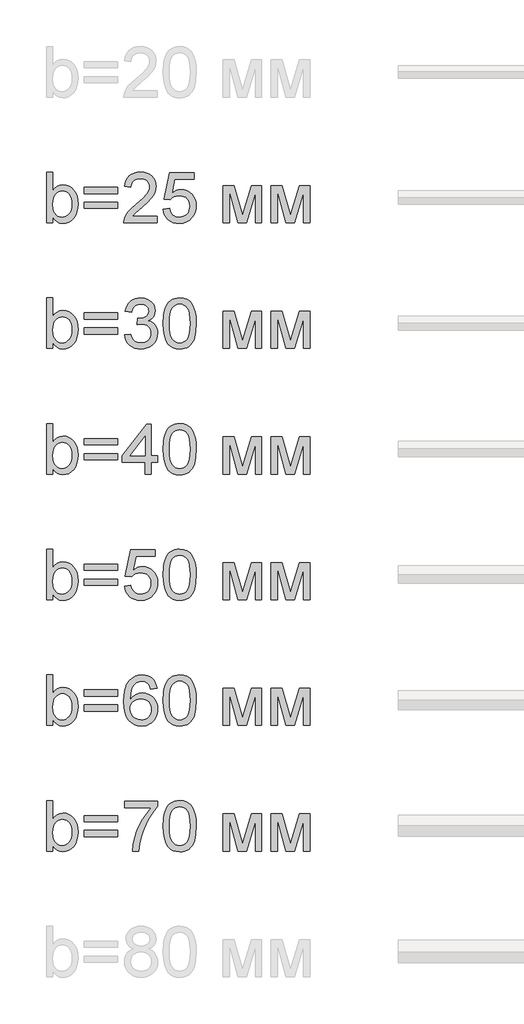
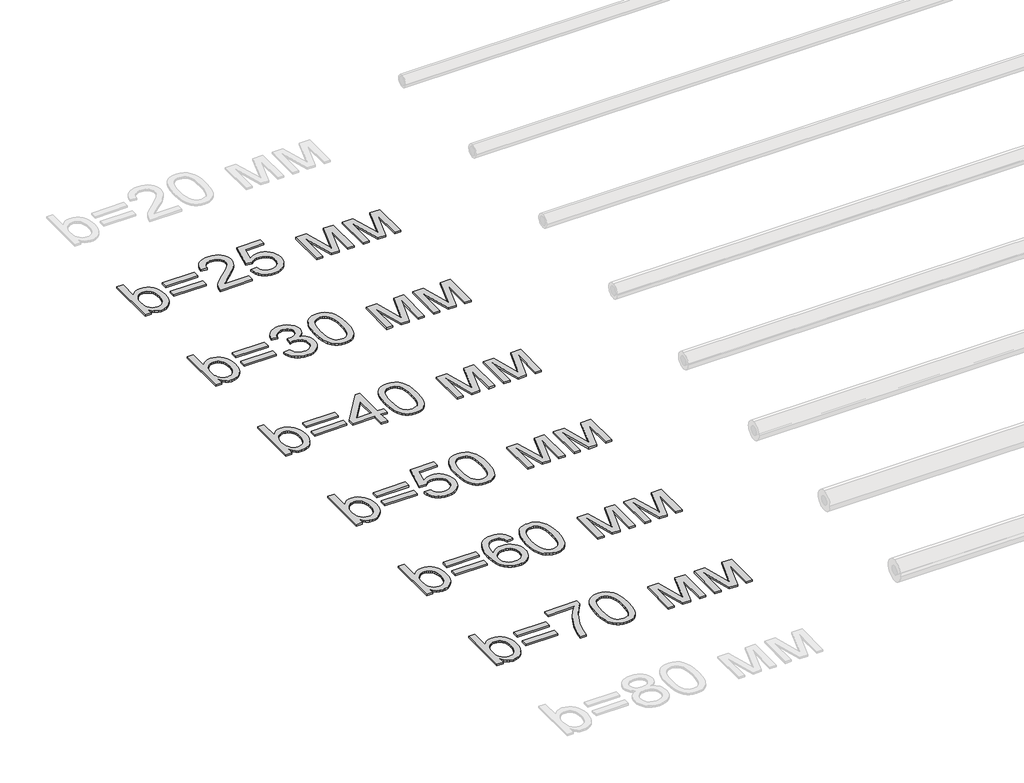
# One storey, part 55 of 86: 6 proxies.
"""IFC4 building model written with IfcOpenShell, lengths in millimetres."""

from ifc_helpers import new_model, si_unit, origin, origin_with_axes, place, context, project, spatial, polyline, outline, extrude, element, save

model = new_model("IFC4")

# Units and contexts
model_context = context("Model", 3, world=origin())
ifc_project = project(units=[si_unit("LENGTHUNIT", "METRE", prefix="MILLI")], contexts=[model_context])

# Site, building, storey
site = spatial("IfcSite", under=ifc_project)
building = spatial("IfcBuilding", under=site)
storey = spatial("IfcBuildingStorey", under=building, Name="Уровень 1", Elevation=0.0)

# Proxies
placement = place(None, origin())
element("IfcBuildingElementProxy", 1, Name="Текст модели 1", ObjectType="Текст модели 1", at=placement, inside=storey, context=model_context, shape_type="SweptSolid", body=[
    extrude(outline(polyline([(47159.6307988, 27669.2937088), (47084.2885662, 27669.2937088), (47084.2885662, 28272.0315697), (47159.6307988, 28272.0315697), (47159.6307988, 28048.5064694), (47184.4076512, 28080.3742473), (47212.3850769, 28103.1369457), (47243.563076, 28116.7945648), (47277.9416484, 28121.3471045), (47316.7531989, 28117.2452202), (47353.4310339, 28104.9395675), (47385.8782258, 28085.2026984), (47411.9978475, 28058.8071653), (47432.4704805, 28026.0104854), (47447.9767066, 27987.0701762), (47457.7439736, 27943.6049185), (47460.9997292, 27897.233393), (47457.6290105, 27843.7249568), (47447.5168541, 27796.6544555), (47430.6632602, 27756.0218892), (47407.0682288, 27721.8272577), (47378.7459136, 27694.7235517), (47347.7104688, 27675.3637617), (47313.9618943, 27663.7478877), (47277.50019, 27659.8759297), (47241.9903805, 27664.8699278), (47210.5088787, 27679.8519221), (47183.0556848, 27704.8219125), (47159.6307988, 27739.7798991), (47159.6307988, 27669.2937088)]), holes=[polyline([(47159.6307988, 27893.7017259), (47164.7811467, 27830.8674811), (47171.2190816, 27807.065516), (47180.2321905, 27788.3403224), (47198.4883345, 27765.0993774), (47219.7059286, 27748.4987024), (47243.8849727, 27738.5382973), (47271.0254669, 27735.2181623), (47293.5582391, 27737.6645776), (47314.5091188, 27745.0038234), (47333.8781058, 27757.2358997), (47351.6652003, 27774.3608066), (47366.5368299, 27796.3325588), (47377.1594225, 27823.105171), (47383.5329781, 27854.6786432), (47385.6574966, 27891.0529755), (47383.6203501, 27928.1170865), (47377.5089104, 27959.9940614), (47367.3231777, 27986.6839001), (47353.0631519, 28008.1866028), (47335.9152524, 28024.7320955), (47317.0658986, 28036.5503046), (47296.5150907, 28043.64123), (47274.2628285, 28046.0048719), (47251.7300563, 28043.5584566), (47230.7791767, 28036.2192108), (47211.4101896, 28023.9871344), (47193.6230951, 28006.8622276), (47178.7514655, 27985.1112046), (47168.1288729, 27959.00078), (47161.7553173, 27928.5309538), (47159.6307988, 27893.7017259)])]), origin_with_axes(), (0.0, 0.0, 1.0), 20.0),
    extrude(outline(polyline([(47931.8886831, 28017.7515346), (47536.3419619, 28017.7515346), (47536.3419619, 28093.0937672), (47931.8886831, 28093.0937672), (47931.8886831, 28017.7515346)])), origin_with_axes(), (0.0, 0.0, 1.0), 20.0),
    extrude(outline(polyline([(47931.8886831, 27838.8137322), (47536.3419619, 27838.8137322), (47536.3419619, 27914.1559648), (47931.8886831, 27914.1559648), (47931.8886831, 27838.8137322)])), origin_with_axes(), (0.0, 0.0, 1.0), 20.0),
    extrude(outline(polyline([(48402.7776369, 27744.6359414), (48402.7776369, 27669.2937088), (48007.2309157, 27669.2937088), (48008.8863847, 27695.8180007), (48015.3243196, 27721.2386465), (48033.9023603, 27761.8344247), (48061.0888398, 27801.2161923), (48100.4154251, 27842.4373698), (48155.4137833, 27888.5513779), (48236.7157043, 27960.7666136), (48285.4968568, 28014.0727147), (48299.724693, 28035.8513288), (48309.8874331, 28057.3356373), (48315.9850772, 28078.5256402), (48318.0176252, 28099.4213376), (48316.1000403, 28119.0800317), (48310.3472856, 28137.1476362), (48300.7593611, 28153.624151), (48287.3362668, 28168.5095763), (48270.8229638, 28180.8382216), (48251.964413, 28189.6443969), (48230.7606145, 28194.928102), (48207.2115683, 28196.6893371), (48182.4025262, 28194.9694888), (48160.2146434, 28189.8099438), (48140.6479198, 28181.2107021), (48123.7023554, 28169.1717638), (48109.9941525, 28154.0977991), (48100.1395136, 28136.3934781), (48094.1384385, 28116.0588008), (48091.9909274, 28093.0937672), (48016.6486948, 28102.5115463), (48023.1280164, 28141.4058703), (48034.9140358, 28175.3889696), (48052.006753, 28204.4608442), (48074.406168, 28228.6214943), (48101.597246, 28247.6134023), (48133.0649521, 28261.1790508), (48168.8092865, 28269.31844), (48208.830249, 28272.0315697), (48249.2098965, 28269.0149373), (48285.1473689, 28259.9650403), (48316.6426662, 28244.8818785), (48343.6957885, 28223.7654519), (48365.4238188, 28198.1792592), (48380.9438405, 28169.6867986), (48390.2558535, 28138.2880704), (48393.3598578, 28103.9830743), (48390.0121317, 28067.9490329), (48379.9689532, 28032.5403908), (48362.1450705, 27996.5247435), (48335.4552318, 27958.6696862), (48292.909679, 27913.4753831), (48227.5186544, 27855.4419984), (48140.8456563, 27782.9692453), (48106.85336, 27744.6359414), (48402.7776369, 27744.6359414)])), origin_with_axes(), (0.0, 0.0, 1.0), 20.0),
    extrude(outline(polyline([(48478.1198695, 27829.3959531), (48553.4621021, 27838.8137322), (48559.0906966, 27814.5933013), (48567.2944651, 27793.5826409), (48578.0734076, 27775.7817508), (48591.427524, 27761.1906312), (48607.3292233, 27749.8276761), (48625.7509142, 27741.7112795), (48646.6925967, 27736.8414416), (48670.154271, 27735.2181623), (48698.8490666, 27737.4760381), (48724.1593479, 27744.2496653), (48746.0851148, 27755.539044), (48764.6263674, 27771.3441743), (48779.3692383, 27790.8833067), (48789.8998604, 27813.3746922), (48796.2182337, 27838.8183307), (48798.3243581, 27867.2142222), (48796.3515909, 27894.0512138), (48790.4332893, 27917.9083611), (48780.5694533, 27938.7856644), (48766.7600829, 27956.6831234), (48748.9591929, 27971.0397183), (48727.1207979, 27981.2944289), (48701.2448981, 27987.4472553), (48671.3314934, 27989.4981974), (48634.7824172, 27986.2240476), (48605.1863106, 27976.4015984), (48581.5498925, 27961.3552248), (48562.8798812, 27942.409302), (48487.5376486, 27951.8270811), (48553.4621021, 28262.6137906), (48845.4132535, 28262.6137906), (48845.4132535, 28187.271558), (48614.3833605, 28187.271558), (48582.1568977, 28021.2832018), (48608.7455689, 28040.3394891), (48635.9780336, 28053.951123), (48663.8542918, 28062.1181032), (48692.3743435, 28064.84043), (48729.065974, 28061.4651127), (48762.7685633, 28051.3391608), (48793.4821113, 28034.4625743), (48821.2066182, 28010.8353531), (48844.1578562, 27981.9014342), (48860.5515976, 27949.1047543), (48870.3878424, 27912.4453135), (48873.6665907, 27871.9231117), (48870.7143377, 27832.8908321), (48861.8575787, 27796.5808791), (48847.0963136, 27762.993253), (48826.4305425, 27732.1279536), (48795.1237848, 27700.5176931), (48758.5931026, 27677.9389357), (48716.8384962, 27664.3916812), (48669.8599654, 27659.8759297), (48630.979437, 27662.777599), (48595.8605021, 27671.4826067), (48564.5031605, 27685.9909529), (48536.9074123, 27706.3026375), (48513.9469773, 27731.4059852), (48496.4955752, 27760.2893203), (48484.5532059, 27792.952643), (48478.1198695, 27829.3959531)])), origin_with_axes(), (0.0, 0.0, 1.0), 20.0),
    extrude(outline(polyline([(49193.8710793, 28111.9293254), (49323.5126944, 28111.9293254), (49423.4294443, 27757.5853876), (49531.1452925, 28111.9293254), (49655.3422541, 28111.9293254), (49655.3422541, 27669.2937088), (49580.0000215, 27669.2937088), (49580.0000215, 28025.6977857), (49471.6955621, 27669.2937088), (49372.8088818, 27669.2937088), (49269.2133119, 28042.7675103), (49269.2133119, 27669.2937088), (49193.8710793, 27669.2937088), (49193.8710793, 28111.9293254)])), origin_with_axes(), (0.0, 0.0, 1.0), 20.0),
    extrude(outline(polyline([(49768.355603, 28111.9293254), (49897.9972181, 28111.9293254), (49997.913968, 27757.5853876), (50105.6298162, 28111.9293254), (50229.8267777, 28111.9293254), (50229.8267777, 27669.2937088), (50154.4845451, 27669.2937088), (50154.4845451, 28025.6977857), (50046.1800857, 27669.2937088), (49947.2934054, 27669.2937088), (49843.6978356, 28042.7675103), (49843.6978356, 27669.2937088), (49768.355603, 27669.2937088), (49768.355603, 28111.9293254)])), origin_with_axes(), (0.0, 0.0, 1.0), 20.0),
])
element("IfcBuildingElementProxy", 2, Name="Текст модели 1", ObjectType="Текст модели 1", at=placement, inside=storey, context=model_context, shape_type="SweptSolid", body=[
    extrude(outline(polyline([(47159.6307988, 26169.2937088), (47084.2885662, 26169.2937088), (47084.2885662, 26772.0315697), (47159.6307988, 26772.0315697), (47159.6307988, 26548.5064694), (47184.4076512, 26580.3742473), (47212.3850769, 26603.1369457), (47243.563076, 26616.7945648), (47277.9416484, 26621.3471045), (47316.7531989, 26617.2452202), (47353.4310339, 26604.9395675), (47385.8782258, 26585.2026984), (47411.9978475, 26558.8071653), (47432.4704805, 26526.0104854), (47447.9767066, 26487.0701762), (47457.7439736, 26443.6049185), (47460.9997292, 26397.233393), (47457.6290105, 26343.7249568), (47447.5168541, 26296.6544555), (47430.6632602, 26256.0218892), (47407.0682288, 26221.8272577), (47378.7459136, 26194.7235517), (47347.7104688, 26175.3637617), (47313.9618943, 26163.7478877), (47277.50019, 26159.8759297), (47241.9903805, 26164.8699278), (47210.5088787, 26179.8519221), (47183.0556848, 26204.8219125), (47159.6307988, 26239.7798991), (47159.6307988, 26169.2937088)]), holes=[polyline([(47159.6307988, 26393.7017259), (47164.7811467, 26330.8674811), (47171.2190816, 26307.065516), (47180.2321905, 26288.3403224), (47198.4883345, 26265.0993774), (47219.7059286, 26248.4987024), (47243.8849727, 26238.5382973), (47271.0254669, 26235.2181623), (47293.5582391, 26237.6645776), (47314.5091188, 26245.0038234), (47333.8781058, 26257.2358997), (47351.6652003, 26274.3608066), (47366.5368299, 26296.3325588), (47377.1594225, 26323.105171), (47383.5329781, 26354.6786432), (47385.6574966, 26391.0529755), (47383.6203501, 26428.1170865), (47377.5089104, 26459.9940614), (47367.3231777, 26486.6839001), (47353.0631519, 26508.1866028), (47335.9152524, 26524.7320955), (47317.0658986, 26536.5503046), (47296.5150907, 26543.64123), (47274.2628285, 26546.0048719), (47251.7300563, 26543.5584566), (47230.7791767, 26536.2192108), (47211.4101896, 26523.9871344), (47193.6230951, 26506.8622276), (47178.7514655, 26485.1112046), (47168.1288729, 26459.00078), (47161.7553173, 26428.5309538), (47159.6307988, 26393.7017259)])]), origin_with_axes(), (0.0, 0.0, 1.0), 20.0),
    extrude(outline(polyline([(47931.8886831, 26517.7515346), (47536.3419619, 26517.7515346), (47536.3419619, 26593.0937672), (47931.8886831, 26593.0937672), (47931.8886831, 26517.7515346)])), origin_with_axes(), (0.0, 0.0, 1.0), 20.0),
    extrude(outline(polyline([(47931.8886831, 26338.8137322), (47536.3419619, 26338.8137322), (47536.3419619, 26414.1559648), (47931.8886831, 26414.1559648), (47931.8886831, 26338.8137322)])), origin_with_axes(), (0.0, 0.0, 1.0), 20.0),
    extrude(outline(polyline([(48016.6486948, 26329.3959531), (48091.9909274, 26338.8137322), (48108.8583168, 26291.4673194), (48120.230469, 26273.5606633), (48133.5615928, 26259.498374), (48149.1551909, 26248.8757814), (48167.3147659, 26241.2882153), (48188.0403178, 26236.7356756), (48211.3318466, 26235.2181623), (48238.6286906, 26237.3058927), (48262.9824787, 26243.5690836), (48284.3932108, 26254.0077352), (48302.860887, 26268.6218475), (48317.7325167, 26286.3169715), (48328.3551093, 26305.9986582), (48334.7286648, 26327.6669077), (48336.8531834, 26351.32172), (48334.7470589, 26373.8498937), (48328.4286857, 26394.3455193), (48317.8980636, 26412.808597), (48303.1551926, 26429.2391266), (48285.165763, 26442.7266002), (48264.8954651, 26452.36051), (48242.3442988, 26458.1408558), (48217.5122641, 26460.0676378), (48193.710299, 26458.0074986), (48164.6844096, 26451.8270811), (48173.0721191, 26527.1693137), (48185.1386485, 26526.2863969), (48230.2777694, 26531.6942622), (48270.6344242, 26547.9178582), (48287.2442963, 26560.1867228), (48299.1084907, 26575.3618551), (48306.2270073, 26593.4432551), (48308.5998461, 26614.430923), (48306.8799978, 26631.4684579), (48301.7204528, 26646.9700854), (48293.1212112, 26660.9358057), (48281.0822729, 26673.3656186), (48266.3302049, 26683.5697454), (48249.5915741, 26690.8584075), (48210.1546242, 26696.6893371), (48189.4980502, 26695.2178091), (48170.6440979, 26690.8032252), (48153.5927675, 26683.4455853), (48138.3440588, 26673.1448894), (48125.2750509, 26659.9011376), (48114.7628229, 26643.7143298), (48106.8073747, 26624.584466), (48101.4087064, 26602.5115463), (48026.0664738, 26611.9293254), (48034.9968093, 26647.8989875), (48048.2497581, 26679.5828243), (48065.8253205, 26706.9808359), (48087.7234962, 26730.0930222), (48113.2545067, 26748.4411368), (48141.7285731, 26761.5469328), (48173.1456955, 26769.4104105), (48207.5058739, 26772.0315697), (48254.8706807, 26766.8628277), (48298.3727267, 26751.3566016), (48335.0505616, 26726.8924489), (48361.9427354, 26694.8499271), (48378.4422429, 26657.9329689), (48383.9420787, 26618.8455069), (48378.7181544, 26582.4251894), (48363.0463814, 26549.3893862), (48337.147489, 26521.2464136), (48301.2422062, 26499.5045877), (48326.3501524, 26491.6503071), (48348.404678, 26480.4483003), (48367.4057831, 26465.8985674), (48383.3534676, 26448.0011083), (48395.97182, 26427.1973815), (48404.9849289, 26403.9288453), (48410.3927942, 26378.1954998), (48412.195416, 26349.9973448), (48408.5901724, 26311.7744055), (48397.7744418, 26276.5680986), (48379.748224, 26244.378424), (48354.5115191, 26215.2053818), (48323.7657814, 26190.9987465), (48289.212465, 26173.7082927), (48250.8515699, 26163.3340205), (48208.6830962, 26159.8759297), (48170.5705215, 26162.8281827), (48135.8424612, 26171.6849418), (48104.4989152, 26186.4462068), (48076.5398836, 26207.1119779), (48053.0966034, 26232.4682444), (48035.3003119, 26261.3009958), (48023.151009, 26293.610232), (48016.6486948, 26329.3959531)])), origin_with_axes(), (0.0, 0.0, 1.0), 20.0),
    extrude(outline(polyline([(48478.1198695, 26465.8065969), (48483.6564935, 26562.2836501), (48490.5772736, 26603.1967265), (48500.2663656, 26639.2261694), (48512.682383, 26670.6662845), (48527.7839389, 26697.8113772), (48545.5710333, 26720.6614476), (48566.0436664, 26739.2164957), (48589.2708158, 26753.5730906), (48615.3214596, 26763.8278012), (48644.1955977, 26769.9806276), (48675.8932301, 26772.0315697), (48722.3199379, 26767.1755274), (48763.8906034, 26752.6074004), (48798.6554519, 26728.8974058), (48824.664709, 26696.6157607), (48844.3096075, 26656.0383766), (48859.9813805, 26607.4411651), (48870.2452882, 26545.7289604), (48873.6665907, 26465.8065969), (48868.185149, 26369.8813667), (48861.3333468, 26329.106246), (48851.7408238, 26293.1227884), (48839.4213755, 26261.6688778), (48824.3887975, 26234.4823983), (48806.6430897, 26211.56335), (48786.1842523, 26192.9117329), (48762.9295116, 26178.458569), (48736.7960944, 26168.1348805), (48707.7840006, 26161.9406674), (48675.8932301, 26159.8759297), (48634.3961411, 26163.4627792), (48597.6079415, 26174.2233275), (48565.5286316, 26192.1575748), (48538.1582111, 26217.265521), (48511.8914367, 26262.6529621), (48493.1294549, 26319.2056218), (48481.8722659, 26386.9235001), (48478.1198695, 26465.8065969)]), holes=[polyline([(48553.4621021, 26465.9537497), (48555.6693941, 26400.456959), (48562.29127, 26347.440565), (48573.3277299, 26306.9045676), (48588.7787737, 26278.848967), (48607.467179, 26259.7604899), (48628.2157235, 26246.1258635), (48651.0244072, 26237.9450876), (48675.8932301, 26235.2181623), (48700.762053, 26237.9542847), (48723.5707367, 26246.1626517), (48744.3192812, 26259.8432634), (48763.0076866, 26278.9961198), (48778.4587304, 26307.0977057), (48789.4951902, 26347.624506), (48796.1170661, 26400.5765206), (48798.3243581, 26465.9537497), (48796.1906425, 26529.7168965), (48789.7894958, 26581.79979), (48779.120918, 26622.2024301), (48764.184909, 26650.9248169), (48745.8092033, 26670.9467945), (48724.8215355, 26685.248207), (48701.2219055, 26693.8290546), (48675.0103133, 26696.6893371), (48650.2702492, 26694.1693454), (48627.8478415, 26686.6093704), (48607.7430905, 26674.0094121), (48589.955996, 26656.3694704), (48573.9899175, 26625.0995008), (48562.5855756, 26582.9402242), (48555.7429705, 26529.8916405), (48553.4621021, 26465.9537497)])]), origin_with_axes(), (0.0, 0.0, 1.0), 20.0),
    extrude(outline(polyline([(49193.8710793, 26611.9293254), (49323.5126944, 26611.9293254), (49423.4294443, 26257.5853876), (49531.1452925, 26611.9293254), (49655.3422541, 26611.9293254), (49655.3422541, 26169.2937088), (49580.0000215, 26169.2937088), (49580.0000215, 26525.6977857), (49471.6955621, 26169.2937088), (49372.8088818, 26169.2937088), (49269.2133119, 26542.7675103), (49269.2133119, 26169.2937088), (49193.8710793, 26169.2937088), (49193.8710793, 26611.9293254)])), origin_with_axes(), (0.0, 0.0, 1.0), 20.0),
    extrude(outline(polyline([(49768.355603, 26611.9293254), (49897.9972181, 26611.9293254), (49997.913968, 26257.5853876), (50105.6298162, 26611.9293254), (50229.8267777, 26611.9293254), (50229.8267777, 26169.2937088), (50154.4845451, 26169.2937088), (50154.4845451, 26525.6977857), (50046.1800857, 26169.2937088), (49947.2934054, 26169.2937088), (49843.6978356, 26542.7675103), (49843.6978356, 26169.2937088), (49768.355603, 26169.2937088), (49768.355603, 26611.9293254)])), origin_with_axes(), (0.0, 0.0, 1.0), 20.0),
])
element("IfcBuildingElementProxy", 3, Name="Текст модели 1", ObjectType="Текст модели 1", at=placement, inside=storey, context=model_context, shape_type="SweptSolid", body=[
    extrude(outline(polyline([(47159.6307988, 24669.2937088), (47084.2885662, 24669.2937088), (47084.2885662, 25272.0315697), (47159.6307988, 25272.0315697), (47159.6307988, 25048.5064694), (47184.4076512, 25080.3742473), (47212.3850769, 25103.1369457), (47243.563076, 25116.7945648), (47277.9416484, 25121.3471045), (47316.7531989, 25117.2452202), (47353.4310339, 25104.9395675), (47385.8782258, 25085.2026984), (47411.9978475, 25058.8071653), (47432.4704805, 25026.0104854), (47447.9767066, 24987.0701762), (47457.7439736, 24943.6049185), (47460.9997292, 24897.233393), (47457.6290105, 24843.7249568), (47447.5168541, 24796.6544555), (47430.6632602, 24756.0218892), (47407.0682288, 24721.8272577), (47378.7459136, 24694.7235517), (47347.7104688, 24675.3637617), (47313.9618943, 24663.7478877), (47277.50019, 24659.8759297), (47241.9903805, 24664.8699278), (47210.5088787, 24679.8519221), (47183.0556848, 24704.8219125), (47159.6307988, 24739.7798991), (47159.6307988, 24669.2937088)]), holes=[polyline([(47159.6307988, 24893.7017259), (47164.7811467, 24830.8674811), (47171.2190816, 24807.065516), (47180.2321905, 24788.3403224), (47198.4883345, 24765.0993774), (47219.7059286, 24748.4987024), (47243.8849727, 24738.5382973), (47271.0254669, 24735.2181623), (47293.5582391, 24737.6645776), (47314.5091188, 24745.0038234), (47333.8781058, 24757.2358997), (47351.6652003, 24774.3608066), (47366.5368299, 24796.3325588), (47377.1594225, 24823.105171), (47383.5329781, 24854.6786432), (47385.6574966, 24891.0529755), (47383.6203501, 24928.1170865), (47377.5089104, 24959.9940614), (47367.3231777, 24986.6839001), (47353.0631519, 25008.1866028), (47335.9152524, 25024.7320955), (47317.0658986, 25036.5503046), (47296.5150907, 25043.64123), (47274.2628285, 25046.0048719), (47251.7300563, 25043.5584566), (47230.7791767, 25036.2192108), (47211.4101896, 25023.9871344), (47193.6230951, 25006.8622276), (47178.7514655, 24985.1112046), (47168.1288729, 24959.00078), (47161.7553173, 24928.5309538), (47159.6307988, 24893.7017259)])]), origin_with_axes(), (0.0, 0.0, 1.0), 20.0),
    extrude(outline(polyline([(47931.8886831, 25017.7515346), (47536.3419619, 25017.7515346), (47536.3419619, 25093.0937672), (47931.8886831, 25093.0937672), (47931.8886831, 25017.7515346)])), origin_with_axes(), (0.0, 0.0, 1.0), 20.0),
    extrude(outline(polyline([(47931.8886831, 24838.8137322), (47536.3419619, 24838.8137322), (47536.3419619, 24914.1559648), (47931.8886831, 24914.1559648), (47931.8886831, 24838.8137322)])), origin_with_axes(), (0.0, 0.0, 1.0), 20.0),
    extrude(outline(polyline([(48261.5109507, 24669.2937088), (48261.5109507, 24810.5603949), (47988.3953575, 24810.5603949), (47988.3953575, 24885.9026276), (48280.3465089, 25262.6137906), (48336.8531834, 25262.6137906), (48336.8531834, 24885.9026276), (48412.195416, 24885.9026276), (48412.195416, 24810.5603949), (48336.8531834, 24810.5603949), (48336.8531834, 24669.2937088), (48261.5109507, 24669.2937088)]), holes=[polyline([(48261.5109507, 24885.9026276), (48261.5109507, 25118.6983541), (48081.1016203, 24885.9026276), (48261.5109507, 24885.9026276)])]), origin_with_axes(), (0.0, 0.0, 1.0), 20.0),
    extrude(outline(polyline([(48478.1198695, 24965.8065969), (48483.6564935, 25062.2836501), (48490.5772736, 25103.1967265), (48500.2663656, 25139.2261694), (48512.682383, 25170.6662845), (48527.7839389, 25197.8113772), (48545.5710333, 25220.6614476), (48566.0436664, 25239.2164957), (48589.2708158, 25253.5730906), (48615.3214596, 25263.8278012), (48644.1955977, 25269.9806276), (48675.8932301, 25272.0315697), (48722.3199379, 25267.1755274), (48763.8906034, 25252.6074004), (48798.6554519, 25228.8974058), (48824.664709, 25196.6157607), (48844.3096075, 25156.0383766), (48859.9813805, 25107.4411651), (48870.2452882, 25045.7289604), (48873.6665907, 24965.8065969), (48868.185149, 24869.8813667), (48861.3333468, 24829.106246), (48851.7408238, 24793.1227884), (48839.4213755, 24761.6688778), (48824.3887975, 24734.4823983), (48806.6430897, 24711.56335), (48786.1842523, 24692.9117329), (48762.9295116, 24678.458569), (48736.7960944, 24668.1348805), (48707.7840006, 24661.9406674), (48675.8932301, 24659.8759297), (48634.3961411, 24663.4627792), (48597.6079415, 24674.2233275), (48565.5286316, 24692.1575748), (48538.1582111, 24717.265521), (48511.8914367, 24762.6529621), (48493.1294549, 24819.2056218), (48481.8722659, 24886.9235001), (48478.1198695, 24965.8065969)]), holes=[polyline([(48553.4621021, 24965.9537497), (48555.6693941, 24900.456959), (48562.29127, 24847.440565), (48573.3277299, 24806.9045676), (48588.7787737, 24778.848967), (48607.467179, 24759.7604899), (48628.2157235, 24746.1258635), (48651.0244072, 24737.9450876), (48675.8932301, 24735.2181623), (48700.762053, 24737.9542847), (48723.5707367, 24746.1626517), (48744.3192812, 24759.8432634), (48763.0076866, 24778.9961198), (48778.4587304, 24807.0977057), (48789.4951902, 24847.624506), (48796.1170661, 24900.5765206), (48798.3243581, 24965.9537497), (48796.1906425, 25029.7168965), (48789.7894958, 25081.79979), (48779.120918, 25122.2024301), (48764.184909, 25150.9248169), (48745.8092033, 25170.9467945), (48724.8215355, 25185.248207), (48701.2219055, 25193.8290546), (48675.0103133, 25196.6893371), (48650.2702492, 25194.1693454), (48627.8478415, 25186.6093704), (48607.7430905, 25174.0094121), (48589.955996, 25156.3694704), (48573.9899175, 25125.0995008), (48562.5855756, 25082.9402242), (48555.7429705, 25029.8916405), (48553.4621021, 24965.9537497)])]), origin_with_axes(), (0.0, 0.0, 1.0), 20.0),
    extrude(outline(polyline([(49193.8710793, 25111.9293254), (49323.5126944, 25111.9293254), (49423.4294443, 24757.5853876), (49531.1452925, 25111.9293254), (49655.3422541, 25111.9293254), (49655.3422541, 24669.2937088), (49580.0000215, 24669.2937088), (49580.0000215, 25025.6977857), (49471.6955621, 24669.2937088), (49372.8088818, 24669.2937088), (49269.2133119, 25042.7675103), (49269.2133119, 24669.2937088), (49193.8710793, 24669.2937088), (49193.8710793, 25111.9293254)])), origin_with_axes(), (0.0, 0.0, 1.0), 20.0),
    extrude(outline(polyline([(49768.355603, 25111.9293254), (49897.9972181, 25111.9293254), (49997.913968, 24757.5853876), (50105.6298162, 25111.9293254), (50229.8267777, 25111.9293254), (50229.8267777, 24669.2937088), (50154.4845451, 24669.2937088), (50154.4845451, 25025.6977857), (50046.1800857, 24669.2937088), (49947.2934054, 24669.2937088), (49843.6978356, 25042.7675103), (49843.6978356, 24669.2937088), (49768.355603, 24669.2937088), (49768.355603, 25111.9293254)])), origin_with_axes(), (0.0, 0.0, 1.0), 20.0),
])
element("IfcBuildingElementProxy", 4, Name="Текст модели 1", ObjectType="Текст модели 1", at=placement, inside=storey, context=model_context, shape_type="SweptSolid", body=[
    extrude(outline(polyline([(47159.6307988, 23169.2937088), (47084.2885662, 23169.2937088), (47084.2885662, 23772.0315697), (47159.6307988, 23772.0315697), (47159.6307988, 23548.5064694), (47184.4076512, 23580.3742473), (47212.3850769, 23603.1369457), (47243.563076, 23616.7945648), (47277.9416484, 23621.3471045), (47316.7531989, 23617.2452202), (47353.4310339, 23604.9395675), (47385.8782258, 23585.2026984), (47411.9978475, 23558.8071653), (47432.4704805, 23526.0104854), (47447.9767066, 23487.0701762), (47457.7439736, 23443.6049185), (47460.9997292, 23397.233393), (47457.6290105, 23343.7249568), (47447.5168541, 23296.6544555), (47430.6632602, 23256.0218892), (47407.0682288, 23221.8272577), (47378.7459136, 23194.7235517), (47347.7104688, 23175.3637617), (47313.9618943, 23163.7478877), (47277.50019, 23159.8759297), (47241.9903805, 23164.8699278), (47210.5088787, 23179.8519221), (47183.0556848, 23204.8219125), (47159.6307988, 23239.7798991), (47159.6307988, 23169.2937088)]), holes=[polyline([(47159.6307988, 23393.7017259), (47164.7811467, 23330.8674811), (47171.2190816, 23307.065516), (47180.2321905, 23288.3403224), (47198.4883345, 23265.0993774), (47219.7059286, 23248.4987024), (47243.8849727, 23238.5382973), (47271.0254669, 23235.2181623), (47293.5582391, 23237.6645776), (47314.5091188, 23245.0038234), (47333.8781058, 23257.2358997), (47351.6652003, 23274.3608066), (47366.5368299, 23296.3325588), (47377.1594225, 23323.105171), (47383.5329781, 23354.6786432), (47385.6574966, 23391.0529755), (47383.6203501, 23428.1170865), (47377.5089104, 23459.9940614), (47367.3231777, 23486.6839001), (47353.0631519, 23508.1866028), (47335.9152524, 23524.7320955), (47317.0658986, 23536.5503046), (47296.5150907, 23543.64123), (47274.2628285, 23546.0048719), (47251.7300563, 23543.5584566), (47230.7791767, 23536.2192108), (47211.4101896, 23523.9871344), (47193.6230951, 23506.8622276), (47178.7514655, 23485.1112046), (47168.1288729, 23459.00078), (47161.7553173, 23428.5309538), (47159.6307988, 23393.7017259)])]), origin_with_axes(), (0.0, 0.0, 1.0), 20.0),
    extrude(outline(polyline([(47931.8886831, 23517.7515346), (47536.3419619, 23517.7515346), (47536.3419619, 23593.0937672), (47931.8886831, 23593.0937672), (47931.8886831, 23517.7515346)])), origin_with_axes(), (0.0, 0.0, 1.0), 20.0),
    extrude(outline(polyline([(47931.8886831, 23338.8137322), (47536.3419619, 23338.8137322), (47536.3419619, 23414.1559648), (47931.8886831, 23414.1559648), (47931.8886831, 23338.8137322)])), origin_with_axes(), (0.0, 0.0, 1.0), 20.0),
    extrude(outline(polyline([(48016.6486948, 23329.3959531), (48091.9909274, 23338.8137322), (48097.6195219, 23314.5933013), (48105.8232904, 23293.5826409), (48116.6022328, 23275.7817508), (48129.9563493, 23261.1906312), (48145.8580485, 23249.8276761), (48164.2797394, 23241.7112795), (48185.221422, 23236.8414416), (48208.6830962, 23235.2181623), (48237.3778919, 23237.4760381), (48262.6881731, 23244.2496653), (48284.61394, 23255.539044), (48303.1551926, 23271.3441743), (48317.8980636, 23290.8833067), (48328.4286857, 23313.3746922), (48334.7470589, 23338.8183307), (48336.8531834, 23367.2142222), (48334.8804162, 23394.0512138), (48328.9621146, 23417.9083611), (48319.0982786, 23438.7856644), (48305.2889082, 23456.6831234), (48287.4880181, 23471.0397183), (48265.6496232, 23481.2944289), (48239.7737234, 23487.4472553), (48209.8603186, 23489.4981974), (48173.3112424, 23486.2240476), (48143.7151359, 23476.4015984), (48120.0787177, 23461.3552248), (48101.4087064, 23442.409302), (48026.0664738, 23451.8270811), (48091.9909274, 23762.6137906), (48383.9420787, 23762.6137906), (48383.9420787, 23687.271558), (48152.9121858, 23687.271558), (48120.685723, 23521.2832018), (48147.2743942, 23540.3394891), (48174.5068589, 23553.951123), (48202.3831171, 23562.1181032), (48230.9031687, 23564.84043), (48267.5947992, 23561.4651127), (48301.2973885, 23551.3391608), (48332.0109366, 23534.4625743), (48359.7354435, 23510.8353531), (48382.6866814, 23481.9014342), (48399.0804228, 23449.1047543), (48408.9166677, 23412.4453135), (48412.195416, 23371.9231117), (48409.243163, 23332.8908321), (48400.3864039, 23296.5808791), (48385.6251389, 23262.993253), (48364.9593678, 23232.1279536), (48333.65261, 23200.5176931), (48297.1219279, 23177.9389357), (48255.3673214, 23164.3916812), (48208.3887906, 23159.8759297), (48169.5082623, 23162.777599), (48134.3893273, 23171.4826067), (48103.0319858, 23185.9909529), (48075.4362376, 23206.3026375), (48052.4758026, 23231.4059852), (48035.0244004, 23260.2893203), (48023.0820311, 23292.952643), (48016.6486948, 23329.3959531)])), origin_with_axes(), (0.0, 0.0, 1.0), 20.0),
    extrude(outline(polyline([(48478.1198695, 23465.8065969), (48483.6564935, 23562.2836501), (48490.5772736, 23603.1967265), (48500.2663656, 23639.2261694), (48512.682383, 23670.6662845), (48527.7839389, 23697.8113772), (48545.5710333, 23720.6614476), (48566.0436664, 23739.2164957), (48589.2708158, 23753.5730906), (48615.3214596, 23763.8278012), (48644.1955977, 23769.9806276), (48675.8932301, 23772.0315697), (48722.3199379, 23767.1755274), (48763.8906034, 23752.6074004), (48798.6554519, 23728.8974058), (48824.664709, 23696.6157607), (48844.3096075, 23656.0383766), (48859.9813805, 23607.4411651), (48870.2452882, 23545.7289604), (48873.6665907, 23465.8065969), (48868.185149, 23369.8813667), (48861.3333468, 23329.106246), (48851.7408238, 23293.1227884), (48839.4213755, 23261.6688778), (48824.3887975, 23234.4823983), (48806.6430897, 23211.56335), (48786.1842523, 23192.9117329), (48762.9295116, 23178.458569), (48736.7960944, 23168.1348805), (48707.7840006, 23161.9406674), (48675.8932301, 23159.8759297), (48634.3961411, 23163.4627792), (48597.6079415, 23174.2233275), (48565.5286316, 23192.1575748), (48538.1582111, 23217.265521), (48511.8914367, 23262.6529621), (48493.1294549, 23319.2056218), (48481.8722659, 23386.9235001), (48478.1198695, 23465.8065969)]), holes=[polyline([(48553.4621021, 23465.9537497), (48555.6693941, 23400.456959), (48562.29127, 23347.440565), (48573.3277299, 23306.9045676), (48588.7787737, 23278.848967), (48607.467179, 23259.7604899), (48628.2157235, 23246.1258635), (48651.0244072, 23237.9450876), (48675.8932301, 23235.2181623), (48700.762053, 23237.9542847), (48723.5707367, 23246.1626517), (48744.3192812, 23259.8432634), (48763.0076866, 23278.9961198), (48778.4587304, 23307.0977057), (48789.4951902, 23347.624506), (48796.1170661, 23400.5765206), (48798.3243581, 23465.9537497), (48796.1906425, 23529.7168965), (48789.7894958, 23581.79979), (48779.120918, 23622.2024301), (48764.184909, 23650.9248169), (48745.8092033, 23670.9467945), (48724.8215355, 23685.248207), (48701.2219055, 23693.8290546), (48675.0103133, 23696.6893371), (48650.2702492, 23694.1693454), (48627.8478415, 23686.6093704), (48607.7430905, 23674.0094121), (48589.955996, 23656.3694704), (48573.9899175, 23625.0995008), (48562.5855756, 23582.9402242), (48555.7429705, 23529.8916405), (48553.4621021, 23465.9537497)])]), origin_with_axes(), (0.0, 0.0, 1.0), 20.0),
    extrude(outline(polyline([(49193.8710793, 23611.9293254), (49323.5126944, 23611.9293254), (49423.4294443, 23257.5853876), (49531.1452925, 23611.9293254), (49655.3422541, 23611.9293254), (49655.3422541, 23169.2937088), (49580.0000215, 23169.2937088), (49580.0000215, 23525.6977857), (49471.6955621, 23169.2937088), (49372.8088818, 23169.2937088), (49269.2133119, 23542.7675103), (49269.2133119, 23169.2937088), (49193.8710793, 23169.2937088), (49193.8710793, 23611.9293254)])), origin_with_axes(), (0.0, 0.0, 1.0), 20.0),
    extrude(outline(polyline([(49768.355603, 23611.9293254), (49897.9972181, 23611.9293254), (49997.913968, 23257.5853876), (50105.6298162, 23611.9293254), (50229.8267777, 23611.9293254), (50229.8267777, 23169.2937088), (50154.4845451, 23169.2937088), (50154.4845451, 23525.6977857), (50046.1800857, 23169.2937088), (49947.2934054, 23169.2937088), (49843.6978356, 23542.7675103), (49843.6978356, 23169.2937088), (49768.355603, 23169.2937088), (49768.355603, 23611.9293254)])), origin_with_axes(), (0.0, 0.0, 1.0), 20.0),
])
element("IfcBuildingElementProxy", 5, Name="Текст модели 1", ObjectType="Текст модели 1", at=placement, inside=storey, context=model_context, shape_type="SweptSolid", body=[
    extrude(outline(polyline([(47159.6307988, 21669.2937088), (47084.2885662, 21669.2937088), (47084.2885662, 22272.0315697), (47159.6307988, 22272.0315697), (47159.6307988, 22048.5064694), (47184.4076512, 22080.3742473), (47212.3850769, 22103.1369457), (47243.563076, 22116.7945648), (47277.9416484, 22121.3471045), (47316.7531989, 22117.2452202), (47353.4310339, 22104.9395675), (47385.8782258, 22085.2026984), (47411.9978475, 22058.8071653), (47432.4704805, 22026.0104854), (47447.9767066, 21987.0701762), (47457.7439736, 21943.6049185), (47460.9997292, 21897.233393), (47457.6290105, 21843.7249568), (47447.5168541, 21796.6544555), (47430.6632602, 21756.0218892), (47407.0682288, 21721.8272577), (47378.7459136, 21694.7235517), (47347.7104688, 21675.3637617), (47313.9618943, 21663.7478877), (47277.50019, 21659.8759297), (47241.9903805, 21664.8699278), (47210.5088787, 21679.8519221), (47183.0556848, 21704.8219125), (47159.6307988, 21739.7798991), (47159.6307988, 21669.2937088)]), holes=[polyline([(47159.6307988, 21893.7017259), (47164.7811467, 21830.8674811), (47171.2190816, 21807.065516), (47180.2321905, 21788.3403224), (47198.4883345, 21765.0993774), (47219.7059286, 21748.4987024), (47243.8849727, 21738.5382973), (47271.0254669, 21735.2181623), (47293.5582391, 21737.6645776), (47314.5091188, 21745.0038234), (47333.8781058, 21757.2358997), (47351.6652003, 21774.3608066), (47366.5368299, 21796.3325588), (47377.1594225, 21823.105171), (47383.5329781, 21854.6786432), (47385.6574966, 21891.0529755), (47383.6203501, 21928.1170865), (47377.5089104, 21959.9940614), (47367.3231777, 21986.6839001), (47353.0631519, 22008.1866028), (47335.9152524, 22024.7320955), (47317.0658986, 22036.5503046), (47296.5150907, 22043.64123), (47274.2628285, 22046.0048719), (47251.7300563, 22043.5584566), (47230.7791767, 22036.2192108), (47211.4101896, 22023.9871344), (47193.6230951, 22006.8622276), (47178.7514655, 21985.1112046), (47168.1288729, 21959.00078), (47161.7553173, 21928.5309538), (47159.6307988, 21893.7017259)])]), origin_with_axes(), (0.0, 0.0, 1.0), 20.0),
    extrude(outline(polyline([(47931.8886831, 22017.7515346), (47536.3419619, 22017.7515346), (47536.3419619, 22093.0937672), (47931.8886831, 22093.0937672), (47931.8886831, 22017.7515346)])), origin_with_axes(), (0.0, 0.0, 1.0), 20.0),
    extrude(outline(polyline([(47931.8886831, 21838.8137322), (47536.3419619, 21838.8137322), (47536.3419619, 21914.1559648), (47931.8886831, 21914.1559648), (47931.8886831, 21838.8137322)])), origin_with_axes(), (0.0, 0.0, 1.0), 20.0),
    extrude(outline(polyline([(48402.7776369, 22111.9293254), (48327.4354043, 22102.5115463), (48315.2952984, 22139.8515688), (48298.8877615, 22165.3457911), (48282.6917566, 22179.0585925), (48264.7115241, 22188.8534506), (48244.9470639, 22194.7303655), (48223.398376, 22196.6893371), (48188.3760101, 22192.1276003), (48155.4137833, 22178.4423901), (48127.1052638, 22149.6188358), (48103.9838804, 22109.9427626), (48094.9477789, 22084.6370799), (48088.3672897, 22053.8223643), (48082.5731483, 21975.6658344), (48112.7946542, 22010.9273236), (48149.0126366, 22035.7777524), (48189.2037446, 22050.5114263), (48231.3446271, 22055.4226509), (48267.5442155, 22052.0657277), (48300.9479006, 22041.9949581), (48331.5556826, 22025.2103421), (48359.3675615, 22001.7118796), (48382.4797478, 21972.8975224), (48398.9884523, 21940.1652218), (48408.8936751, 21903.5149781), (48412.195416, 21862.9467911), (48410.6411145, 21835.4798016), (48405.9782103, 21808.9968965), (48398.2067031, 21783.4980757), (48387.3265931, 21758.9833392), (48373.7241563, 21736.3677936), (48357.7856689, 21716.5665452), (48339.5111308, 21699.5795941), (48318.900542, 21685.4069402), (48296.3953609, 21674.2371231), (48272.437046, 21666.2586823), (48247.0255972, 21661.4716179), (48220.1610145, 21659.8759297), (48175.2472214, 21664.1065727), (48134.6836329, 21676.7985015), (48098.470249, 21697.9517162), (48066.6070697, 21727.5662168), (48040.6300023, 21766.8928021), (48022.0749542, 21817.1822709), (48010.9419253, 21878.4346231), (48007.2309157, 21950.6498587), (48011.351194, 22031.6114888), (48023.7120291, 22100.7089245), (48044.3134208, 22157.9421659), (48057.7043254, 22182.1097138), (48073.1553692, 22203.311213), (48104.4161418, 22233.3763691), (48140.6617153, 22254.8514805), (48181.8920899, 22267.7365474), (48228.1072656, 22272.0315697), (48262.8077348, 22269.3736223), (48294.2156601, 22261.39978), (48322.3310416, 22248.110043), (48347.1538792, 22229.5044111), (48368.0127884, 22206.2082837), (48384.2363843, 22178.8470603), (48395.8246672, 22147.4207409), (48402.7776369, 22111.9293254)]), holes=[polyline([(48082.5731483, 21864.1240134), (48086.9325499, 21830.7387224), (48100.0107549, 21798.8617475), (48120.317841, 21771.4545389), (48146.3638863, 21751.4785465), (48177.7994027, 21739.2832584), (48214.2749026, 21735.2181623), (48240.4635021, 21737.3242868), (48263.9941542, 21743.64266), (48284.8668589, 21754.1732821), (48303.0816162, 21768.9161531), (48317.8566768, 21787.2734647), (48328.4102916, 21808.6474086), (48334.7424604, 21833.0379849), (48336.8531834, 21860.4451935), (48334.7700516, 21886.7809458), (48328.5206562, 21910.1644451), (48318.1049972, 21930.5956914), (48303.5230746, 21948.0746847), (48285.253135, 21962.0771932), (48263.773425, 21972.0789849), (48239.0839446, 21978.08006), (48211.1846938, 21980.0804183), (48185.3455822, 21978.08006), (48161.5390186, 21972.0789849), (48139.765003, 21962.0771932), (48120.0235354, 21948.0746847), (48103.638991, 21930.8256177), (48091.9357451, 21911.0841501), (48084.9137975, 21888.850282), (48082.5731483, 21864.1240134)])]), origin_with_axes(), (0.0, 0.0, 1.0), 20.0),
    extrude(outline(polyline([(48478.1198695, 21965.8065969), (48483.6564935, 22062.2836501), (48490.5772736, 22103.1967265), (48500.2663656, 22139.2261694), (48512.682383, 22170.6662845), (48527.7839389, 22197.8113772), (48545.5710333, 22220.6614476), (48566.0436664, 22239.2164957), (48589.2708158, 22253.5730906), (48615.3214596, 22263.8278012), (48644.1955977, 22269.9806276), (48675.8932301, 22272.0315697), (48722.3199379, 22267.1755274), (48763.8906034, 22252.6074004), (48798.6554519, 22228.8974058), (48824.664709, 22196.6157607), (48844.3096075, 22156.0383766), (48859.9813805, 22107.4411651), (48870.2452882, 22045.7289604), (48873.6665907, 21965.8065969), (48868.185149, 21869.8813667), (48861.3333468, 21829.106246), (48851.7408238, 21793.1227884), (48839.4213755, 21761.6688778), (48824.3887975, 21734.4823983), (48806.6430897, 21711.56335), (48786.1842523, 21692.9117329), (48762.9295116, 21678.458569), (48736.7960944, 21668.1348805), (48707.7840006, 21661.9406674), (48675.8932301, 21659.8759297), (48634.3961411, 21663.4627792), (48597.6079415, 21674.2233275), (48565.5286316, 21692.1575748), (48538.1582111, 21717.265521), (48511.8914367, 21762.6529621), (48493.1294549, 21819.2056218), (48481.8722659, 21886.9235001), (48478.1198695, 21965.8065969)]), holes=[polyline([(48553.4621021, 21965.9537497), (48555.6693941, 21900.456959), (48562.29127, 21847.440565), (48573.3277299, 21806.9045676), (48588.7787737, 21778.848967), (48607.467179, 21759.7604899), (48628.2157235, 21746.1258635), (48651.0244072, 21737.9450876), (48675.8932301, 21735.2181623), (48700.762053, 21737.9542847), (48723.5707367, 21746.1626517), (48744.3192812, 21759.8432634), (48763.0076866, 21778.9961198), (48778.4587304, 21807.0977057), (48789.4951902, 21847.624506), (48796.1170661, 21900.5765206), (48798.3243581, 21965.9537497), (48796.1906425, 22029.7168965), (48789.7894958, 22081.79979), (48779.120918, 22122.2024301), (48764.184909, 22150.9248169), (48745.8092033, 22170.9467945), (48724.8215355, 22185.248207), (48701.2219055, 22193.8290546), (48675.0103133, 22196.6893371), (48650.2702492, 22194.1693454), (48627.8478415, 22186.6093704), (48607.7430905, 22174.0094121), (48589.955996, 22156.3694704), (48573.9899175, 22125.0995008), (48562.5855756, 22082.9402242), (48555.7429705, 22029.8916405), (48553.4621021, 21965.9537497)])]), origin_with_axes(), (0.0, 0.0, 1.0), 20.0),
    extrude(outline(polyline([(49193.8710793, 22111.9293254), (49323.5126944, 22111.9293254), (49423.4294443, 21757.5853876), (49531.1452925, 22111.9293254), (49655.3422541, 22111.9293254), (49655.3422541, 21669.2937088), (49580.0000215, 21669.2937088), (49580.0000215, 22025.6977857), (49471.6955621, 21669.2937088), (49372.8088818, 21669.2937088), (49269.2133119, 22042.7675103), (49269.2133119, 21669.2937088), (49193.8710793, 21669.2937088), (49193.8710793, 22111.9293254)])), origin_with_axes(), (0.0, 0.0, 1.0), 20.0),
    extrude(outline(polyline([(49768.355603, 22111.9293254), (49897.9972181, 22111.9293254), (49997.913968, 21757.5853876), (50105.6298162, 22111.9293254), (50229.8267777, 22111.9293254), (50229.8267777, 21669.2937088), (50154.4845451, 21669.2937088), (50154.4845451, 22025.6977857), (50046.1800857, 21669.2937088), (49947.2934054, 21669.2937088), (49843.6978356, 22042.7675103), (49843.6978356, 21669.2937088), (49768.355603, 21669.2937088), (49768.355603, 22111.9293254)])), origin_with_axes(), (0.0, 0.0, 1.0), 20.0),
])
element("IfcBuildingElementProxy", 6, Name="Текст модели 1", ObjectType="Текст модели 1", at=placement, inside=storey, context=model_context, shape_type="SweptSolid", body=[
    extrude(outline(polyline([(47159.6307988, 20169.2937088), (47084.2885662, 20169.2937088), (47084.2885662, 20772.0315697), (47159.6307988, 20772.0315697), (47159.6307988, 20548.5064694), (47184.4076512, 20580.3742473), (47212.3850769, 20603.1369457), (47243.563076, 20616.7945648), (47277.9416484, 20621.3471045), (47316.7531989, 20617.2452202), (47353.4310339, 20604.9395675), (47385.8782258, 20585.2026984), (47411.9978475, 20558.8071653), (47432.4704805, 20526.0104854), (47447.9767066, 20487.0701762), (47457.7439736, 20443.6049185), (47460.9997292, 20397.233393), (47457.6290105, 20343.7249568), (47447.5168541, 20296.6544555), (47430.6632602, 20256.0218892), (47407.0682288, 20221.8272577), (47378.7459136, 20194.7235517), (47347.7104688, 20175.3637617), (47313.9618943, 20163.7478877), (47277.50019, 20159.8759297), (47241.9903805, 20164.8699278), (47210.5088787, 20179.8519221), (47183.0556848, 20204.8219125), (47159.6307988, 20239.7798991), (47159.6307988, 20169.2937088)]), holes=[polyline([(47159.6307988, 20393.7017259), (47164.7811467, 20330.8674811), (47171.2190816, 20307.065516), (47180.2321905, 20288.3403224), (47198.4883345, 20265.0993774), (47219.7059286, 20248.4987024), (47243.8849727, 20238.5382973), (47271.0254669, 20235.2181623), (47293.5582391, 20237.6645776), (47314.5091188, 20245.0038234), (47333.8781058, 20257.2358997), (47351.6652003, 20274.3608066), (47366.5368299, 20296.3325588), (47377.1594225, 20323.105171), (47383.5329781, 20354.6786432), (47385.6574966, 20391.0529755), (47383.6203501, 20428.1170865), (47377.5089104, 20459.9940614), (47367.3231777, 20486.6839001), (47353.0631519, 20508.1866028), (47335.9152524, 20524.7320955), (47317.0658986, 20536.5503046), (47296.5150907, 20543.64123), (47274.2628285, 20546.0048719), (47251.7300563, 20543.5584566), (47230.7791767, 20536.2192108), (47211.4101896, 20523.9871344), (47193.6230951, 20506.8622276), (47178.7514655, 20485.1112046), (47168.1288729, 20459.00078), (47161.7553173, 20428.5309538), (47159.6307988, 20393.7017259)])]), origin_with_axes(), (0.0, 0.0, 1.0), 20.0),
    extrude(outline(polyline([(47931.8886831, 20517.7515346), (47536.3419619, 20517.7515346), (47536.3419619, 20593.0937672), (47931.8886831, 20593.0937672), (47931.8886831, 20517.7515346)])), origin_with_axes(), (0.0, 0.0, 1.0), 20.0),
    extrude(outline(polyline([(47931.8886831, 20338.8137322), (47536.3419619, 20338.8137322), (47536.3419619, 20414.1559648), (47931.8886831, 20414.1559648), (47931.8886831, 20338.8137322)])), origin_with_axes(), (0.0, 0.0, 1.0), 20.0),
    extrude(outline(polyline([(48016.6486948, 20687.271558), (48016.6486948, 20762.6137906), (48412.195416, 20762.6137906), (48412.195416, 20701.6925322), (48355.8175002, 20630.3418193), (48299.9914074, 20539.6037251), (48250.7504024, 20437.7555948), (48230.861782, 20385.7692703), (48214.1277498, 20333.0747731), (48196.1751084, 20254.7526963), (48186.1687181, 20169.2937088), (48110.8264855, 20169.2937088), (48118.9750717, 20246.953598), (48140.7720799, 20339.2551906), (48156.6415895, 20388.6203558), (48175.628899, 20437.0934072), (48197.7340084, 20484.6743447), (48222.9569177, 20531.3631685), (48278.2127933, 20616.5830326), (48336.8531834, 20687.271558), (48016.6486948, 20687.271558)])), origin_with_axes(), (0.0, 0.0, 1.0), 20.0),
    extrude(outline(polyline([(48478.1198695, 20465.8065969), (48483.6564935, 20562.2836501), (48490.5772736, 20603.1967265), (48500.2663656, 20639.2261694), (48512.682383, 20670.6662845), (48527.7839389, 20697.8113772), (48545.5710333, 20720.6614476), (48566.0436664, 20739.2164957), (48589.2708158, 20753.5730906), (48615.3214596, 20763.8278012), (48644.1955977, 20769.9806276), (48675.8932301, 20772.0315697), (48722.3199379, 20767.1755274), (48763.8906034, 20752.6074004), (48798.6554519, 20728.8974058), (48824.664709, 20696.6157607), (48844.3096075, 20656.0383766), (48859.9813805, 20607.4411651), (48870.2452882, 20545.7289604), (48873.6665907, 20465.8065969), (48868.185149, 20369.8813667), (48861.3333468, 20329.106246), (48851.7408238, 20293.1227884), (48839.4213755, 20261.6688778), (48824.3887975, 20234.4823983), (48806.6430897, 20211.56335), (48786.1842523, 20192.9117329), (48762.9295116, 20178.458569), (48736.7960944, 20168.1348805), (48707.7840006, 20161.9406674), (48675.8932301, 20159.8759297), (48634.3961411, 20163.4627792), (48597.6079415, 20174.2233275), (48565.5286316, 20192.1575748), (48538.1582111, 20217.265521), (48511.8914367, 20262.6529621), (48493.1294549, 20319.2056218), (48481.8722659, 20386.9235001), (48478.1198695, 20465.8065969)]), holes=[polyline([(48553.4621021, 20465.9537497), (48555.6693941, 20400.456959), (48562.29127, 20347.440565), (48573.3277299, 20306.9045676), (48588.7787737, 20278.848967), (48607.467179, 20259.7604899), (48628.2157235, 20246.1258635), (48651.0244072, 20237.9450876), (48675.8932301, 20235.2181623), (48700.762053, 20237.9542847), (48723.5707367, 20246.1626517), (48744.3192812, 20259.8432634), (48763.0076866, 20278.9961198), (48778.4587304, 20307.0977057), (48789.4951902, 20347.624506), (48796.1170661, 20400.5765206), (48798.3243581, 20465.9537497), (48796.1906425, 20529.7168965), (48789.7894958, 20581.79979), (48779.120918, 20622.2024301), (48764.184909, 20650.9248169), (48745.8092033, 20670.9467945), (48724.8215355, 20685.248207), (48701.2219055, 20693.8290546), (48675.0103133, 20696.6893371), (48650.2702492, 20694.1693454), (48627.8478415, 20686.6093704), (48607.7430905, 20674.0094121), (48589.955996, 20656.3694704), (48573.9899175, 20625.0995008), (48562.5855756, 20582.9402242), (48555.7429705, 20529.8916405), (48553.4621021, 20465.9537497)])]), origin_with_axes(), (0.0, 0.0, 1.0), 20.0),
    extrude(outline(polyline([(49193.8710793, 20611.9293254), (49323.5126944, 20611.9293254), (49423.4294443, 20257.5853876), (49531.1452925, 20611.9293254), (49655.3422541, 20611.9293254), (49655.3422541, 20169.2937088), (49580.0000215, 20169.2937088), (49580.0000215, 20525.6977857), (49471.6955621, 20169.2937088), (49372.8088818, 20169.2937088), (49269.2133119, 20542.7675103), (49269.2133119, 20169.2937088), (49193.8710793, 20169.2937088), (49193.8710793, 20611.9293254)])), origin_with_axes(), (0.0, 0.0, 1.0), 20.0),
    extrude(outline(polyline([(49768.355603, 20611.9293254), (49897.9972181, 20611.9293254), (49997.913968, 20257.5853876), (50105.6298162, 20611.9293254), (50229.8267777, 20611.9293254), (50229.8267777, 20169.2937088), (50154.4845451, 20169.2937088), (50154.4845451, 20525.6977857), (50046.1800857, 20169.2937088), (49947.2934054, 20169.2937088), (49843.6978356, 20542.7675103), (49843.6978356, 20169.2937088), (49768.355603, 20169.2937088), (49768.355603, 20611.9293254)])), origin_with_axes(), (0.0, 0.0, 1.0), 20.0),
])

save(model, "model.ifc")
